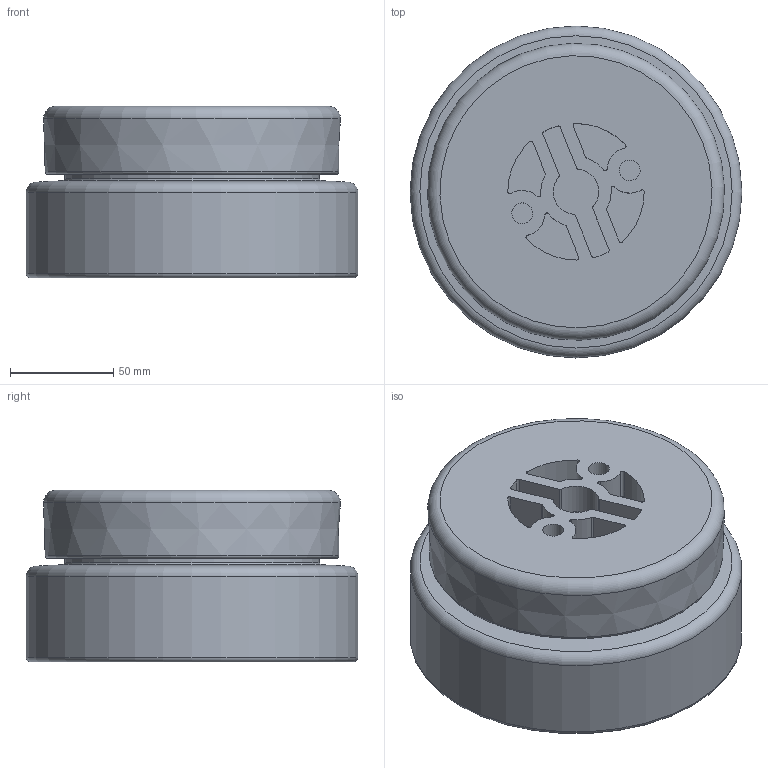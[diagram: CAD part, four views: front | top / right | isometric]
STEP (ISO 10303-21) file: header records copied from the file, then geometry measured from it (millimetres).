
FILE_DESCRIPTION(/* description */ (''),/* implementation_level */ '2;1');
FILE_NAME(/* name */ 'Z:\Geberit\Export\Export18\315.005_Enddeckel PE-S2 d160 L7.2 verschrb\stp\315005.stp',/* time_stamp */ '2014-08-26T21:58:28+02:00',/* author */ ('Samyo'),/* organization */ (''),/* preprocessor_version */ 'ST-DEVELOPER v15.2',/* originating_system */ 'Autodesk Inventor 2014',/* authorisation */ '');
FILE_SCHEMA (('AUTOMOTIVE_DESIGN { 1 0 10303 214 3 1 1 }'));
Length unit declared in the file: millimetre
Products named in the file (3): 861.198_Gewindestutzen D160 PE-S2; 853.404_Verschlusskappe PP für d110; 315005
Bounding box: 160.47 x 160.47 x 83 mm (x, y, z)
Volume: 482485.2 mm3; surface area: 151811.8 mm2
Topology: 2 solids, 2 shells, 84 faces, 195 edges, 126 vertices
Faces by surface type: cylinder 49, plane 23, torus 7, cone 5
Full cylindrical faces by diameter (mm): 10 x2, 78 x1, 102 x1, 109.6 x1, 113 x1, 123.4 x1, 145.775 x1, 160.475 x1
Entity records: 2392 total; most frequent: DIRECTION 462, CARTESIAN_POINT 389, ORIENTED_EDGE 348, AXIS2_PLACEMENT_3D 199, EDGE_CURVE 174, VERTEX_POINT 126, EDGE_LOOP 118, CIRCLE 110
